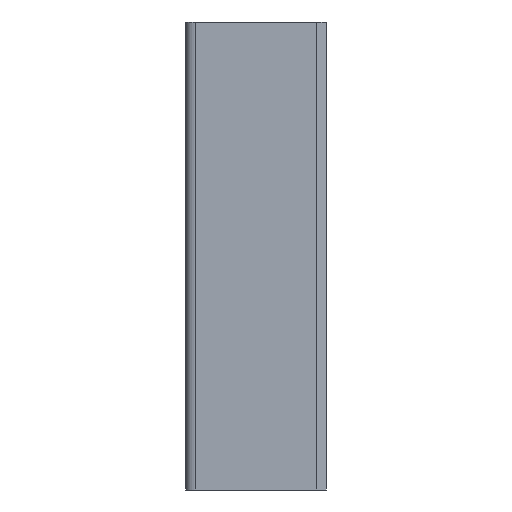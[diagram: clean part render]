
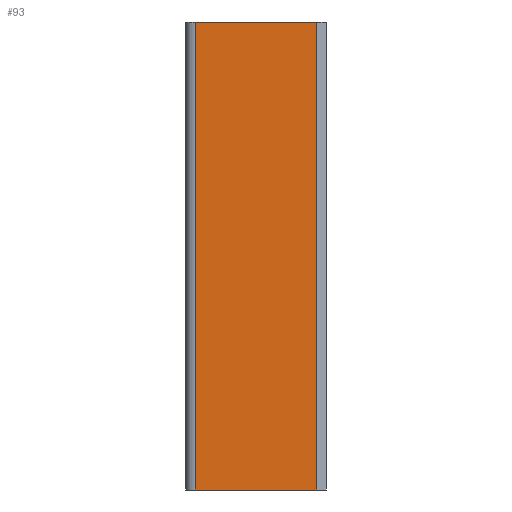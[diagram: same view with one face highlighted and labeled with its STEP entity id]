
A CAD part, left-side view. The second image highlights one B-rep face of the part: STEP entity #93.
In plain terms, the highlighted face is a extrusion surface.
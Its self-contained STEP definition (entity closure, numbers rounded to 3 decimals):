
#54=CARTESIAN_POINT('Control Point',(0.,3.,-150.)) ;
#55=CARTESIAN_POINT('Control Point',(0.,3.,0.)) ;
#59=CARTESIAN_POINT('Line Origine',(0.,22.5,0.)) ;
#63=CARTESIAN_POINT('Vertex',(0.,3.,0.)) ;
#65=CARTESIAN_POINT('Vertex',(0.,42.,0.)) ;
#68=CARTESIAN_POINT('Line Origine',(0.,42.,-75.)) ;
#72=CARTESIAN_POINT('Vertex',(0.,42.,-150.)) ;
#75=CARTESIAN_POINT('Line Origine',(0.,22.5,-150.)) ;
#79=CARTESIAN_POINT('Vertex',(0.,3.,-150.)) ;
#82=CARTESIAN_POINT('Line Origine',(0.,3.,-75.)) ;
#56=DIRECTION('Vector Direction',(0.,1.,0.)) ;
#60=DIRECTION('Vector Direction',(0.,1.,0.)) ;
#69=DIRECTION('Vector Direction',(0.,0.,1.)) ;
#76=DIRECTION('Vector Direction',(0.,1.,0.)) ;
#83=DIRECTION('Vector Direction',(0.,0.,1.)) ;
#88=ORIENTED_EDGE('',*,*,#67,.T.) ;
#89=ORIENTED_EDGE('',*,*,#74,.T.) ;
#90=ORIENTED_EDGE('',*,*,#81,.T.) ;
#91=ORIENTED_EDGE('',*,*,#86,.T.) ;
#57=VECTOR('Extrusion Surface Vector',#56,1.) ;
#61=VECTOR('Line Direction',#60,1.) ;
#70=VECTOR('Line Direction',#69,1.) ;
#77=VECTOR('Line Direction',#76,1.) ;
#84=VECTOR('Line Direction',#83,1.) ;
#93=ADVANCED_FACE('Superficie.1',(#92),#58,.T.) ;
#53=B_SPLINE_CURVE_WITH_KNOTS('',1,(#54,#55),.UNSPECIFIED.,.F.,.U.,(2,2),(-75.,75.),.UNSPECIFIED.) ;
#67=EDGE_CURVE('',#64,#66,#62,.T.) ;
#74=EDGE_CURVE('',#66,#73,#71,.F.) ;
#81=EDGE_CURVE('',#73,#80,#78,.F.) ;
#86=EDGE_CURVE('',#80,#64,#85,.T.) ;
#87=EDGE_LOOP('',(#88,#89,#90,#91)) ;
#92=FACE_OUTER_BOUND('',#87,.T.) ;
#62=LINE('Line',#59,#61) ;
#71=LINE('Line',#68,#70) ;
#78=LINE('Line',#75,#77) ;
#85=LINE('Line',#82,#84) ;
#58=SURFACE_OF_LINEAR_EXTRUSION('generated tabulated cylinder',#53,#57) ;
#64=VERTEX_POINT('',#63) ;
#66=VERTEX_POINT('',#65) ;
#73=VERTEX_POINT('',#72) ;
#80=VERTEX_POINT('',#79) ;
